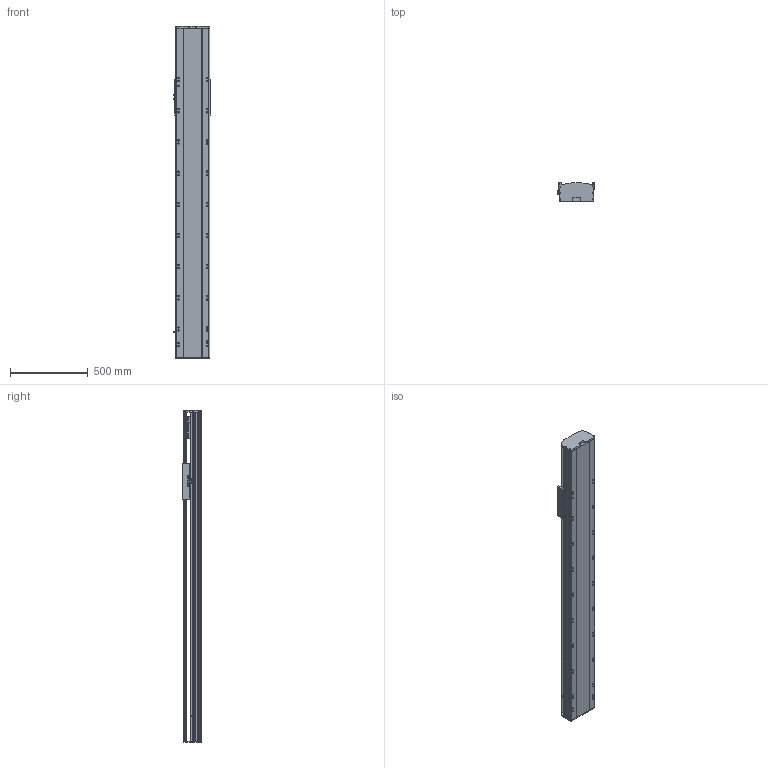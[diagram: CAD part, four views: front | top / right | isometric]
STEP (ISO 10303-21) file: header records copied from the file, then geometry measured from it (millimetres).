
FILE_DESCRIPTION (( 'STEP AP214' ), '1' );
FILE_NAME ('RTH22-XX-1500-B-M75B-C4.STEP', '2025-10-24T10:15:40', ( 'Microsoft' ), ( 'Microsoft' ), 'SwSTEP 2.0', 'SolidWorks 2018', '' );
FILE_SCHEMA (( 'AUTOMOTIVE_DESIGN' ));
Length unit declared in the file: millimetre
Products named in the file (9): N_RTH22-B-007B奻裔^RTH22-XX-XX-B-M75B-C4; N_OMRON EE-SX672 传感器^RTH22-XX-XX-B-M75B-C4; RTH22-XX-1500-B-M75B-C4; N_RTH22-B-011B菁釱^RTH22-XX-XX-B-M75B-C4; N_750W萇儂^RTH22-XX-XX-B-M75B-C4; N_RTH22-GY-001耜裔^RTH22-XX-XX-B-M75B-C4; N_RTH22-B008萇儂啣^RTH22-XX-XX-B-M75B-C4; N_RTH22-E-004-SFS25賑釱^RTH22-XX-XX-B-M75B-C4; N_RTH22-GY-013外置感应片^RTH22-XX-XX-B-M75B-C4
Assembly tree (10 placements, depth 2):
  RTH22-XX-1500-B-M75B-C4
    N_RTH22-B-011B菁釱^RTH22-XX-XX-B-M75B-C4
    N_RTH22-GY-001耜裔^RTH22-XX-XX-B-M75B-C4
    N_750W萇儂^RTH22-XX-XX-B-M75B-C4
    N_RTH22-B008萇儂啣^RTH22-XX-XX-B-M75B-C4
    N_RTH22-B-007B奻裔^RTH22-XX-XX-B-M75B-C4
    N_OMRON EE-SX672 传感器^RTH22-XX-XX-B-M75B-C4  x3
    N_RTH22-GY-013外置感应片^RTH22-XX-XX-B-M75B-C4
    N_RTH22-E-004-SFS25賑釱^RTH22-XX-XX-B-M75B-C4
Bounding box: 238.5 x 122 x 2130 mm (x, y, z)
Volume: 27791213.4 mm3; surface area: 2838049.5 mm2
Topology: 10 solids, 10 shells, 1587 faces, 4350 edges, 2803 vertices
Faces by surface type: plane 760, cylinder 478, bspline 279, cone 70
Entity records: 40065 total; most frequent: CARTESIAN_POINT 12289, ORIENTED_EDGE 5652, DIRECTION 5364, EDGE_CURVE 2826, VERTEX_POINT 1839, AXIS2_PLACEMENT_3D 1830, LINE 1704, VECTOR 1704
